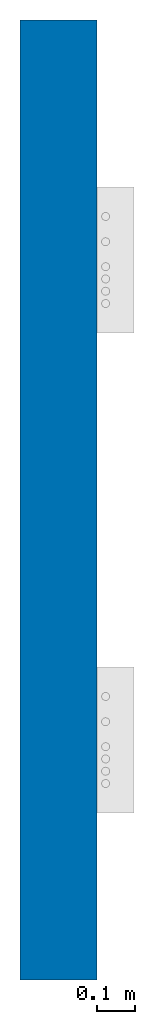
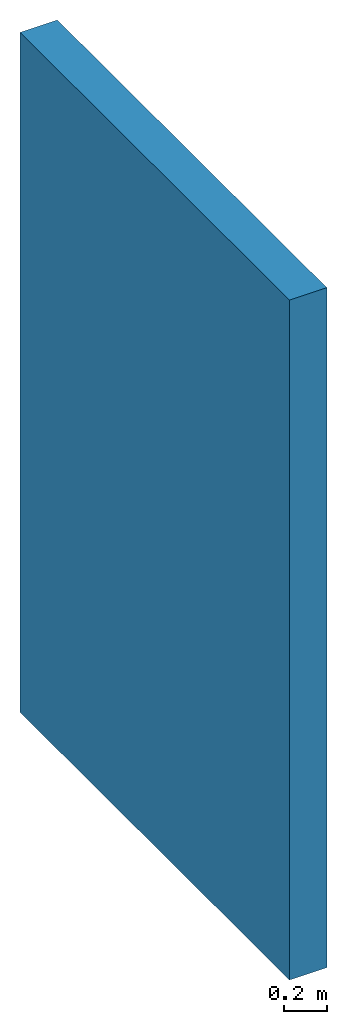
# One storey, incomplete: 1 wall.
"""IFC2X3 building model written with IfcOpenShell, lengths in metres."""

from ifc_helpers import new_model, entity, si_unit, converted_unit, derived_unit, direction, frame, frame_2d, origin, place, context, subcontext, project, spatial, rectangle, extrude, material, layer, layer_set, layer_usage, type_object, element, save


model = new_model("IFC2X3")

# Units and contexts
model_context = context("Model", 3, precision=1e-05, world=origin(), true_north=direction((6.12303176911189e-17, 1.0)))
body_context = subcontext(model_context, "Body", "Model", "MODEL_VIEW")
ifc_project = project(units=[si_unit("LENGTHUNIT", "METRE"), si_unit("AREAUNIT", "SQUARE_METRE"), si_unit("VOLUMEUNIT", "CUBIC_METRE"), converted_unit("PLANEANGLEUNIT", "DEGREE", entity("IfcRatioMeasure", 0.0174532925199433), si_unit("PLANEANGLEUNIT", "RADIAN"), dimensions=[0, 0, 0, 0, 0, 0, 0]), si_unit("MASSUNIT", "GRAM", prefix="KILO"), si_unit("TIMEUNIT", "SECOND"), si_unit("FREQUENCYUNIT", "HERTZ"), si_unit("THERMODYNAMICTEMPERATUREUNIT", "DEGREE_CELSIUS"), derived_unit("THERMALTRANSMITTANCEUNIT", [(si_unit("MASSUNIT", "GRAM", prefix="KILO"), 1), (si_unit("THERMODYNAMICTEMPERATUREUNIT", "KELVIN"), -1), (si_unit("TIMEUNIT", "SECOND"), -3)]), derived_unit("VOLUMETRICFLOWRATEUNIT", [(si_unit("LENGTHUNIT", "METRE"), 3), (si_unit("TIMEUNIT", "SECOND"), -1)]), si_unit("ELECTRICCURRENTUNIT", "AMPERE"), si_unit("ELECTRICVOLTAGEUNIT", "VOLT"), si_unit("POWERUNIT", "WATT"), si_unit("FORCEUNIT", "NEWTON", prefix="KILO"), si_unit("ILLUMINANCEUNIT", "LUX"), si_unit("LUMINOUSFLUXUNIT", "LUMEN"), si_unit("LUMINOUSINTENSITYUNIT", "CANDELA"), derived_unit("USERDEFINED", [(si_unit("MASSUNIT", "GRAM", prefix="KILO"), -1), (si_unit("LENGTHUNIT", "METRE"), -2), (si_unit("TIMEUNIT", "SECOND"), 3), (si_unit("LUMINOUSFLUXUNIT", "LUMEN"), 1)]), derived_unit("LINEARVELOCITYUNIT", [(si_unit("LENGTHUNIT", "METRE"), 1), (si_unit("TIMEUNIT", "SECOND"), -1)]), si_unit("PRESSUREUNIT", "PASCAL"), derived_unit("USERDEFINED", [(si_unit("LENGTHUNIT", "METRE"), -2), (si_unit("MASSUNIT", "GRAM", prefix="KILO"), 1), (si_unit("TIMEUNIT", "SECOND"), -2)])], contexts=[model_context])

# Site, building, storey
site_placement = place(None, origin())
site = spatial("IfcSite", under=ifc_project, at=site_placement, Name="Default", CompositionType="ELEMENT")
building_placement = place(site_placement, origin())
building = spatial("IfcBuilding", under=site, at=building_placement, CompositionType="ELEMENT")
storey_placement = place(building_placement, frame((0.0, 0.0, 37.55)))
storey = spatial("IfcBuildingStorey", under=building, at=storey_placement, Name="Level 0", CompositionType="ELEMENT", Elevation=37.55)

# Wall
ifc_material = material(Name="Default")
ifc_layer = layer(ifc_material, 0.2)
ifc_layer_set = layer_set([ifc_layer], Name="Basic Wall:200mm")
ifc_layer_usage = layer_usage(ifc_layer_set, "AXIS2", "NEGATIVE", 0.1)
wall_type = type_object("IfcWallType", Name="Basic Wall:200mm", PredefinedType="STANDARD", material=ifc_layer_set)
wall_placement = place(storey_placement, frame((15.1716033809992, 11.1772665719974, 0.0), z_axis=(0.0, 0.0, 1.0), x_axis=(0.0, 1.0, 0.0)))
element("IfcWallStandardCase", 1, at=wall_placement, inside=storey, type_object=wall_type, material=ifc_layer_usage, Name="Basic Wall:200mm", ObjectType="Basic Wall:200mm", context=body_context, shape_type="SweptSolid", body=[
    extrude(rectangle(XDim=2.49999999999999, YDim=0.200000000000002, at=frame_2d((1.25, -3.05311331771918e-16), x_axis=(-1.0, 0.0))), origin(), (0.0, 0.0, 1.0), 3.85),
])

save(model, "model.ifc")
